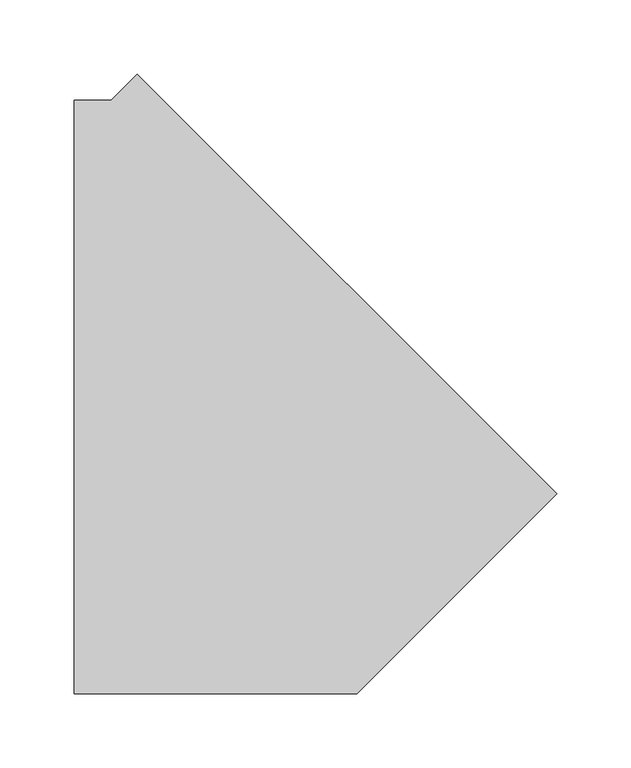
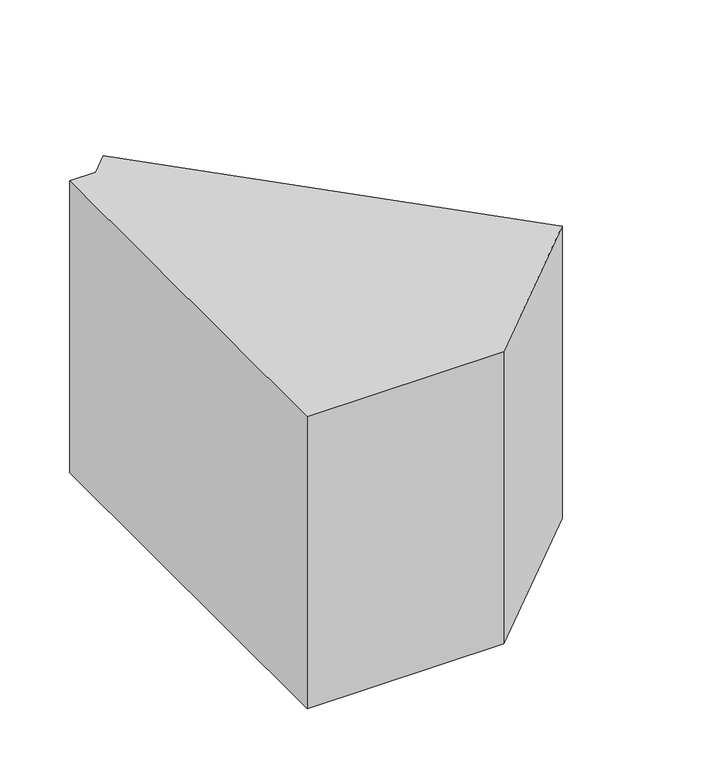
"""IFC4 building model written with IfcOpenShell, lengths in millimetres: duct fitting geometry, 2017_Codo_Climaver_Codo-Rectangular-Biselado : Codo_Rectangular_Biselado_Climaver."""

from ifc_helpers import new_model, si_unit, frame, origin, place, context, project, spatial, polyline, outline, extrude, source, transform, mapped, element, save


def duct_fitting_9c9c52ba(model_context):
    return source(origin(), model_context, "Body", "SweptSolid", [
        extrude(outline(polyline([(-107.8427125, -200.0), (-107.8427125, 200.0), (-82.8427125, 200.0), (-65.1650429, 217.6776695), (217.6776695, -65.1650429), (82.8427125, -200.0), (-107.8427125, -200.0)])), frame((0.0, 0.0, -150.0), z_axis=(0.0, 0.0, 1.0), x_axis=(1.0, 0.0, 0.0)), (0.0, 0.0, 1.0), 300.0),
    ])


if __name__ == "__main__":
    model = new_model("IFC4")
    model_context = context("Model", 3, world=origin())
    ifc_project = project(units=[si_unit("LENGTHUNIT", "METRE", prefix="MILLI")], contexts=[model_context])
    site = spatial("IfcSite", under=ifc_project)
    building = spatial("IfcBuilding", under=site)
    placement = place(None, origin())
    duct_fitting_shape = duct_fitting_9c9c52ba(model_context)
    element("IfcDuctFitting", 1, ObjectType="2017_Codo_Climaver_Codo-Rectangular-Biselado : Codo_Rectangular_Biselado_Climaver", at=placement, inside=building, context=model_context, shape_type="MappedRepresentation", body=[
        mapped(duct_fitting_shape, transform((0.0, 0.0, 0.0), x_axis=(1.0, 0.0, 0.0), y_axis=(0.0, 1.0, 0.0), z_axis=(0.0, 0.0, 1.0))),
    ])
    save(model, "model.ifc")
